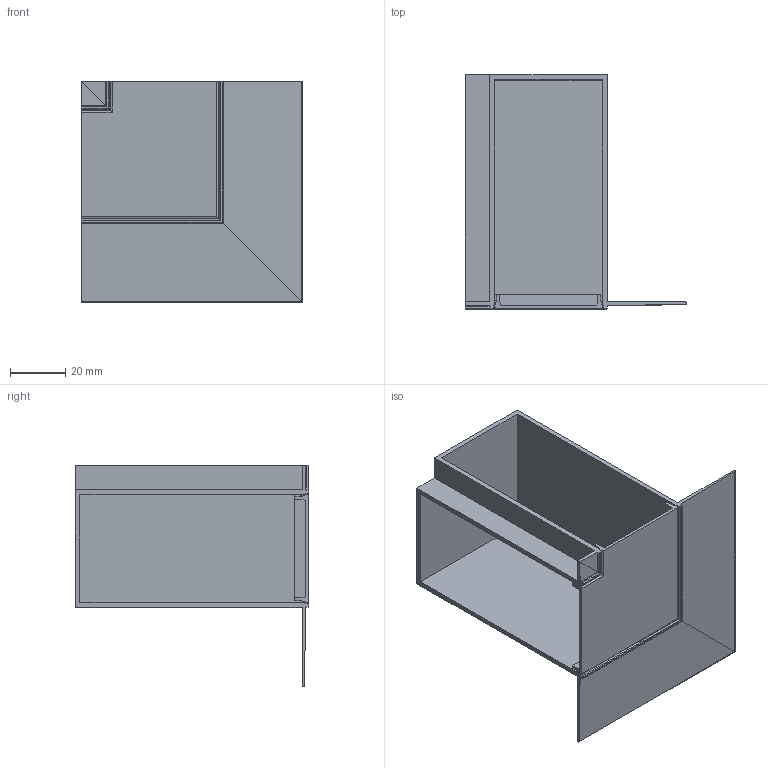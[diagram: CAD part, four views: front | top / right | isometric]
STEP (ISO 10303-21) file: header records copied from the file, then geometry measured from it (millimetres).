
FILE_DESCRIPTION(/* description */ (''),/* implementation_level */ '2;1');
FILE_NAME(/* name */ '03_x_t.stp',/* time_stamp */ '2018-03-02T11:08:08+01:00',/* author */ (''),/* organization */ (''),/* preprocessor_version */ 'ST-DEVELOPER v16',/* originating_system */ 'SIEMENS PLM Software NX 11.0',/* authorisation */ '');
FILE_SCHEMA (('AUTOMOTIVE_DESIGN { 1 0 10303 214 3 1 1 1 }'));
Length unit declared in the file: millimetre
Products named in the file (3): 03_id6_x_t; 03_id11_x_t; 03_x_t
Assembly tree (2 placements, depth 2):
  03_x_t
    03_id11_x_t
    03_id6_x_t
Bounding box: 80.45 x 85 x 80.45 mm (x, y, z)
Volume: 30255.1 mm3; surface area: 39747.3 mm2
Topology: 2 solids, 2 shells, 68 faces, 174 edges, 110 vertices
Faces by surface type: plane 46, cylinder 14, bspline 8
Entity records: 2096 total; most frequent: CARTESIAN_POINT 403, ORIENTED_EDGE 348, DIRECTION 325, EDGE_CURVE 174, LINE 141, VECTOR 141, VERTEX_POINT 110, AXIS2_PLACEMENT_3D 92
